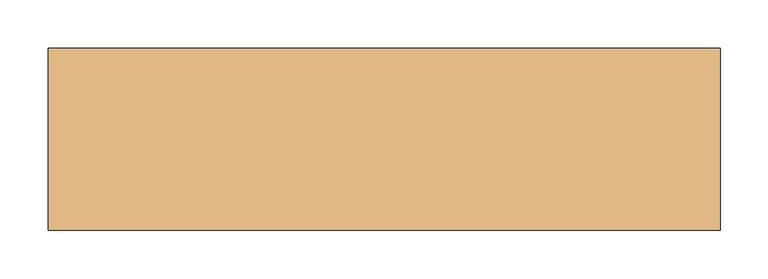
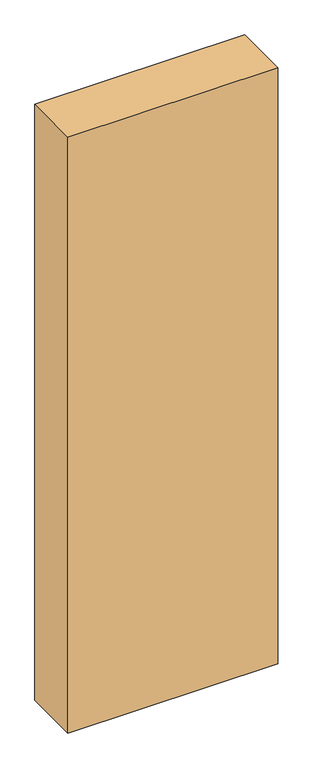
"""IFC4 building model written with IfcOpenShell, lengths in millimetres: door geometry, Dr_Проем-Простой : ДВ."""

from ifc_helpers import new_model, si_unit, origin, origin_with_axes, place, context, project, spatial, polyline, outline, extrude, source, transform, mapped, element, save


def door_5594d525(model_context):
    return source(origin(), model_context, "Body", "SweptSolid", [
        extrude(outline(polyline([(555.3230163, -95.0), (-144.6769837, -95.0), (-144.6769837, 95.0), (555.3230163, 95.0), (555.3230163, -95.0)])), origin_with_axes(), (0.0, 0.0, 1.0), 2100.0),
    ])


if __name__ == "__main__":
    model = new_model("IFC4")
    model_context = context("Model", 3, world=origin())
    ifc_project = project(units=[si_unit("LENGTHUNIT", "METRE", prefix="MILLI")], contexts=[model_context])
    site = spatial("IfcSite", under=ifc_project)
    building = spatial("IfcBuilding", under=site)
    placement = place(None, origin())
    door_shape = door_5594d525(model_context)
    element("IfcDoor", 1, ObjectType="Dr_Проем-Простой : ДВ", at=placement, inside=building, context=model_context, shape_type="MappedRepresentation", body=[
        mapped(door_shape, transform((0.0, 0.0, 0.0), x_axis=(1.0, 0.0, 0.0), y_axis=(0.0, 1.0, 0.0), z_axis=(0.0, 0.0, 1.0))),
    ])
    save(model, "model.ifc")
